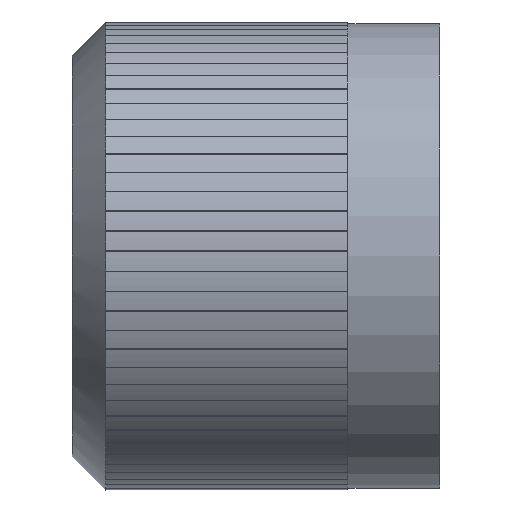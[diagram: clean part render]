
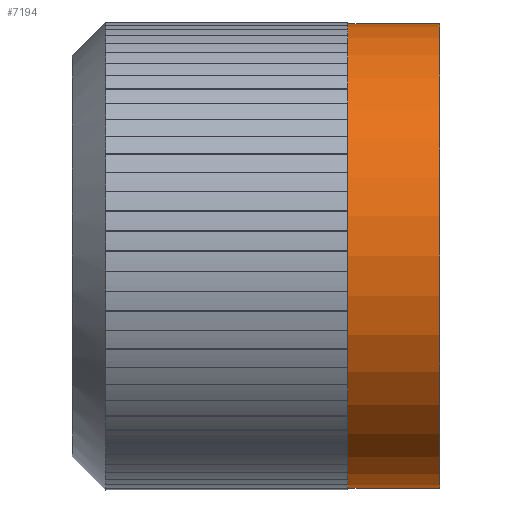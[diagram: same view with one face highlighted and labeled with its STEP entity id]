
A CAD part, front view. The second image highlights one B-rep face of the part: STEP entity #7194.
In plain terms, the highlighted cylindrical face has radius 13.9 mm (diameter 27.8 mm), a partial arc.
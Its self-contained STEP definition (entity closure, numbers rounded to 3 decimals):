
#192 = VECTOR ( 'NONE', #9447, 1000. ) ;
#406 = VERTEX_POINT ( 'NONE', #1460 ) ;
#553 = VERTEX_POINT ( 'NONE', #2852 ) ;
#1137 = VECTOR ( 'NONE', #4872, 1000. ) ;
#1188 = EDGE_CURVE ( 'NONE', #3922, #406, #10367, .T. ) ;
#1460 = CARTESIAN_POINT ( 'NONE',  ( 16.5, 0., 13.9 ) ) ;
#1689 = LINE ( 'NONE', #9685, #1137 ) ;
#1971 = DIRECTION ( 'NONE',  ( -1., 0., 0. ) ) ;
#2041 = CARTESIAN_POINT ( 'NONE',  ( 22., 0., 0. ) ) ;
#2528 = ORIENTED_EDGE ( 'NONE', *, *, #1188, .F. ) ;
#2811 = FACE_OUTER_BOUND ( 'NONE', #4439, .T. ) ;
#2852 = CARTESIAN_POINT ( 'NONE',  ( 22., 0., 13.9 ) ) ;
#3603 = EDGE_CURVE ( 'NONE', #553, #406, #3880, .T. ) ;
#3705 = EDGE_CURVE ( 'NONE', #5105, #553, #10173, .T. ) ;
#3880 = LINE ( 'NONE', #7841, #192 ) ;
#3922 = VERTEX_POINT ( 'NONE', #4804 ) ;
#3942 = ORIENTED_EDGE ( 'NONE', *, *, #8985, .F. ) ;
#4141 = CARTESIAN_POINT ( 'NONE',  ( 16.5, 0., 0. ) ) ;
#4439 = EDGE_LOOP ( 'NONE', ( #3942, #5593, #7274, #2528 ) ) ;
#4645 = DIRECTION ( 'NONE',  ( -1., 0., 0. ) ) ;
#4804 = CARTESIAN_POINT ( 'NONE',  ( 16.5, 0., -13.9 ) ) ;
#4872 = DIRECTION ( 'NONE',  ( -1., 0., 0. ) ) ;
#4889 = AXIS2_PLACEMENT_3D ( 'NONE', #2041, #1971, #7544 ) ;
#4931 = DIRECTION ( 'NONE',  ( 0., 0., 1. ) ) ;
#5105 = VERTEX_POINT ( 'NONE', #5259 ) ;
#5259 = CARTESIAN_POINT ( 'NONE',  ( 22., 0., -13.9 ) ) ;
#5593 = ORIENTED_EDGE ( 'NONE', *, *, #3705, .T. ) ;
#7194 = ADVANCED_FACE ( 'NONE', ( #2811 ), #8910, .T. ) ;
#7274 = ORIENTED_EDGE ( 'NONE', *, *, #3603, .T. ) ;
#7286 = AXIS2_PLACEMENT_3D ( 'NONE', #4141, #9734, #4931 ) ;
#7452 = DIRECTION ( 'NONE',  ( 0., 0., 1. ) ) ;
#7544 = DIRECTION ( 'NONE',  ( 0., 0., 1. ) ) ;
#7841 = CARTESIAN_POINT ( 'NONE',  ( -3.742, 0., 13.9 ) ) ;
#7971 = CARTESIAN_POINT ( 'NONE',  ( -3.742, 0., 0. ) ) ;
#8910 = CYLINDRICAL_SURFACE ( 'NONE', #10186, 13.9 ) ;
#8985 = EDGE_CURVE ( 'NONE', #5105, #3922, #1689, .T. ) ;
#9447 = DIRECTION ( 'NONE',  ( -1., 0., 0. ) ) ;
#9685 = CARTESIAN_POINT ( 'NONE',  ( -3.742, 0., -13.9 ) ) ;
#9734 = DIRECTION ( 'NONE',  ( -1., 0., 0. ) ) ;
#10173 = CIRCLE ( 'NONE', #4889, 13.9 ) ;
#10186 = AXIS2_PLACEMENT_3D ( 'NONE', #7971, #4645, #7452 ) ;
#10367 = CIRCLE ( 'NONE', #7286, 13.9 ) ;
